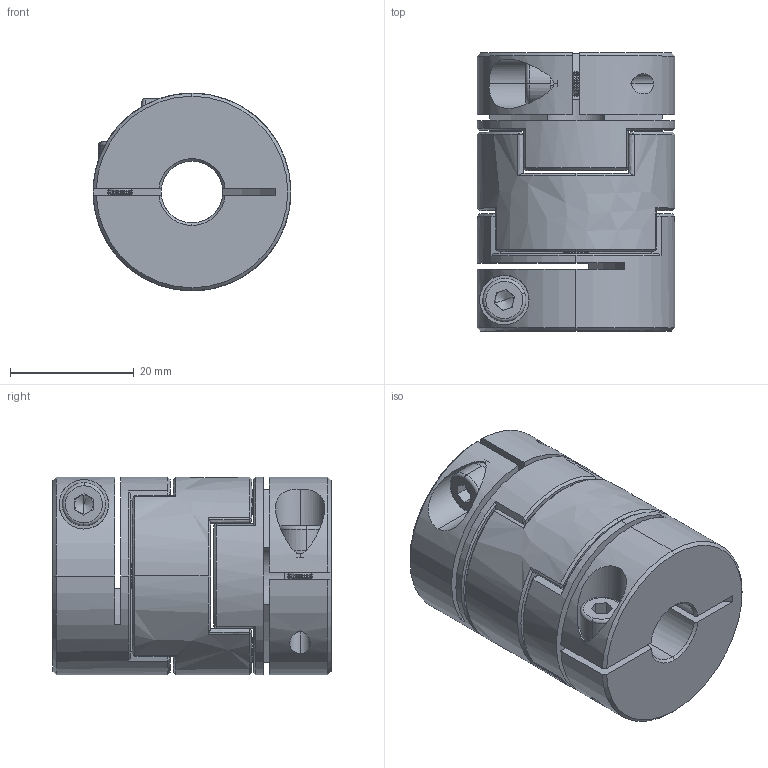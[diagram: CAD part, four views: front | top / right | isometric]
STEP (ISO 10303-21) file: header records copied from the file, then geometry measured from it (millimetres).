
FILE_DESCRIPTION (( 'STEP AP203' ), '1' );
FILE_NAME ('LZ-B-D32L45-10-10.STEP', '2021-10-29T06:43:12', ( '' ), ( '' ), 'SwSTEP 2.0', 'SolidWorks 2018', '' );
FILE_SCHEMA (( 'CONFIG_CONTROL_DESIGN' ));
Length unit declared in the file: millimetre
Products named in the file (1): LZ-B-D32L45-10-10
Bounding box: 32 x 45 x 32 mm (x, y, z)
Volume: 29347.5 mm3; surface area: 13197.5 mm2
Topology: 1 solids, 1 shells, 356 faces, 856 edges, 498 vertices
Faces by surface type: cone 118, cylinder 92, plane 84, bspline 54, torus 8
Entity records: 11145 total; most frequent: CARTESIAN_POINT 3197, ORIENTED_EDGE 1704, DIRECTION 1578, EDGE_CURVE 852, AXIS2_PLACEMENT_3D 619, VERTEX_POINT 498, EDGE_LOOP 382, FACE_OUTER_BOUND 356
